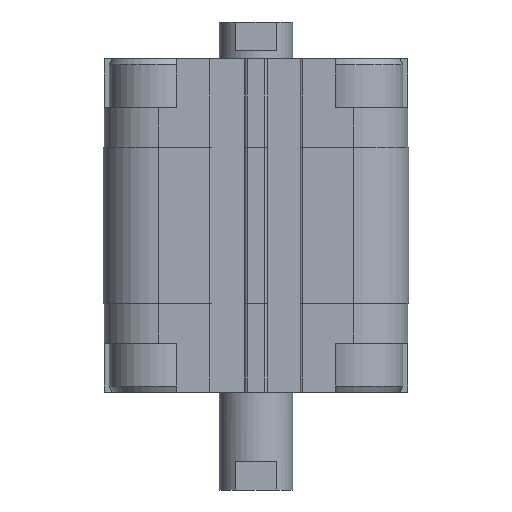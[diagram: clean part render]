
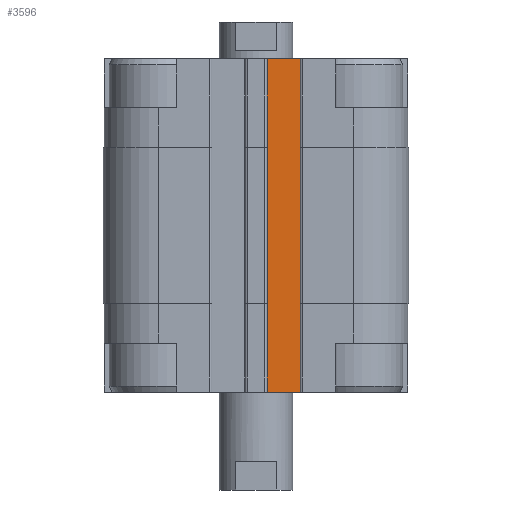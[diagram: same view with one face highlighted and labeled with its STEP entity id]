
A CAD part, front view. The second image highlights one B-rep face of the part: STEP entity #3596.
In plain terms, the highlighted planar face has unit normal (0, -1, 0).
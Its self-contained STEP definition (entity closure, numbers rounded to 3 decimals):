
#1876 = PLANE ( 'NONE',  #6412 ) ;
#3336 = CARTESIAN_POINT ( 'NONE',  ( 7.5, -19.9, -14.5 ) ) ;
#3521 = ORIENTED_EDGE ( 'NONE', *, *, #14295, .T. ) ;
#3596 = ADVANCED_FACE ( 'NONE', ( #15934 ), #1876, .T. ) ;
#3680 = CARTESIAN_POINT ( 'NONE',  ( 1.5, -19.9, -14.5 ) ) ;
#3696 = DIRECTION ( 'NONE',  ( -1., 0., 0. ) ) ;
#3964 = VERTEX_POINT ( 'NONE', #8462 ) ;
#4623 = VERTEX_POINT ( 'NONE', #11047 ) ;
#5861 = VERTEX_POINT ( 'NONE', #20072 ) ;
#5981 = ORIENTED_EDGE ( 'NONE', *, *, #12405, .T. ) ;
#6412 = AXIS2_PLACEMENT_3D ( 'NONE', #6912, #12285, #3696 ) ;
#6912 = CARTESIAN_POINT ( 'NONE',  ( 1.5, -19.9, -14.5 ) ) ;
#7233 = CARTESIAN_POINT ( 'NONE',  ( 1.5, -19.9, 0. ) ) ;
#8462 = CARTESIAN_POINT ( 'NONE',  ( 7.5, -19.9, -54.5 ) ) ;
#8946 = LINE ( 'NONE', #3680, #20652 ) ;
#9041 = LINE ( 'NONE', #3336, #18778 ) ;
#9191 = ORIENTED_EDGE ( 'NONE', *, *, #17982, .F. ) ;
#10193 = DIRECTION ( 'NONE',  ( 1., 0., 0. ) ) ;
#10664 = DIRECTION ( 'NONE',  ( 0., 0., 1. ) ) ;
#11047 = CARTESIAN_POINT ( 'NONE',  ( 7.5, -19.9, 0. ) ) ;
#11700 = EDGE_LOOP ( 'NONE', ( #9191, #22049, #3521, #5981 ) ) ;
#12285 = DIRECTION ( 'NONE',  ( 0., -1., 0. ) ) ;
#12405 = EDGE_CURVE ( 'NONE', #3964, #4623, #9041, .T. ) ;
#13946 = LINE ( 'NONE', #15782, #21398 ) ;
#14295 = EDGE_CURVE ( 'NONE', #5861, #3964, #20709, .T. ) ;
#15678 = CARTESIAN_POINT ( 'NONE',  ( 1.5, -19.9, -54.5 ) ) ;
#15782 = CARTESIAN_POINT ( 'NONE',  ( 1.5, -19.9, 0. ) ) ;
#15934 = FACE_OUTER_BOUND ( 'NONE', #11700, .T. ) ;
#16044 = VECTOR ( 'NONE', #22438, 1000. ) ;
#17371 = EDGE_CURVE ( 'NONE', #5861, #18783, #8946, .T. ) ;
#17982 = EDGE_CURVE ( 'NONE', #18783, #4623, #13946, .T. ) ;
#18778 = VECTOR ( 'NONE', #19326, 1000. ) ;
#18783 = VERTEX_POINT ( 'NONE', #7233 ) ;
#19326 = DIRECTION ( 'NONE',  ( 0., 0., 1. ) ) ;
#20072 = CARTESIAN_POINT ( 'NONE',  ( 1.5, -19.9, -54.5 ) ) ;
#20652 = VECTOR ( 'NONE', #10664, 1000. ) ;
#20709 = LINE ( 'NONE', #15678, #16044 ) ;
#21398 = VECTOR ( 'NONE', #10193, 1000. ) ;
#22049 = ORIENTED_EDGE ( 'NONE', *, *, #17371, .F. ) ;
#22438 = DIRECTION ( 'NONE',  ( 1., 0., 0. ) ) ;
